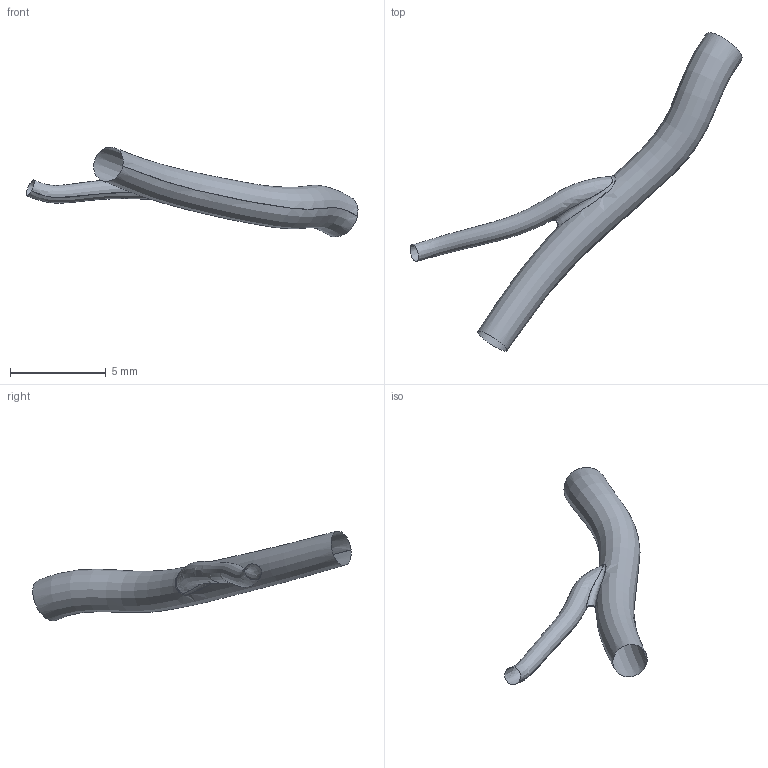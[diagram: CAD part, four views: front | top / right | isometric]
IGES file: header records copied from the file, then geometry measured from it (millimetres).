
Global section: file name: C:\Documents and Settings\Administrator\Desktop\FDA-Pig\Domestic RCA\Pig_000003\pda.es.igs; native system: Rhinoceros ( May 19 2006 ); preprocessor: Trout Lake IGES 012 May 19 2006; date: 111205.184838; units: centimetre
Bounding box: 17.31 x 16.61 x 4.68 mm (x, y, z)
Surface area: 160.4 mm2 (no closed solid volume)
Topology: 0 solids, 0 shells, 3 faces, 56 edges, 53 vertices
Faces by surface type: bspline 3
